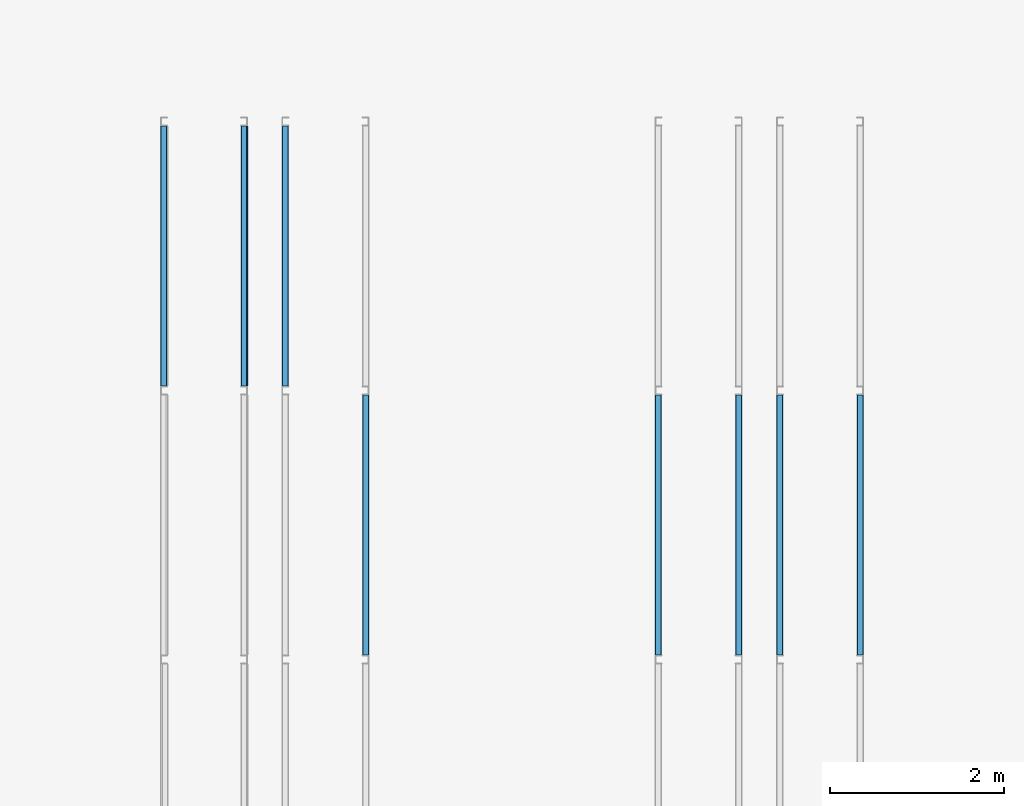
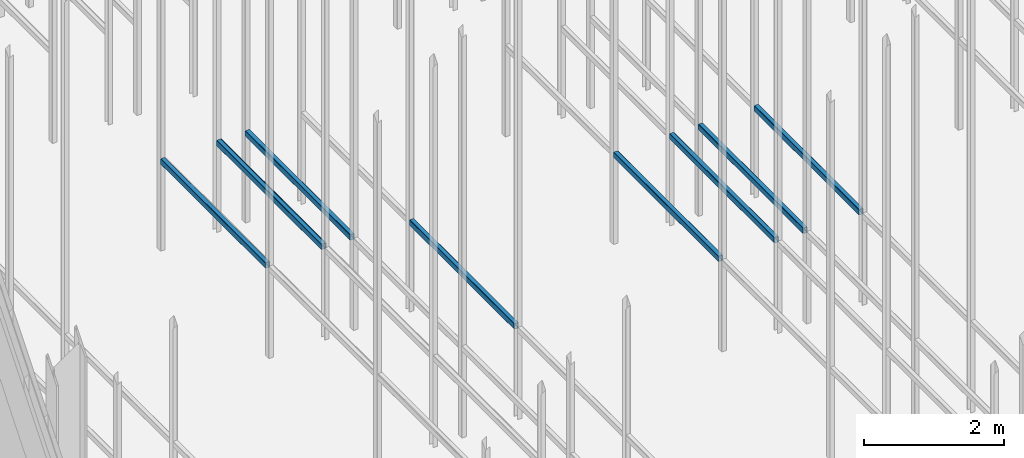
# One storey, part 146 of 302: 9 beams.
"""IFC2X3 building model written with IfcOpenShell, lengths in metres."""

from ifc_helpers import new_model, entity, si_unit, converted_unit, derived_unit, direction, frame, frame_2d, origin, place, context, subcontext, project, spatial, polyline, circle_curve, parameter, trimmed, segment, composite_curve, outline, extrude, material, type_object, element, save


model = new_model("IFC2X3")

# Units and contexts
model_context = context("Model", 3, precision=1e-05, world=origin(), true_north=direction((6.12303176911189e-17, 1.0)))
body_context = subcontext(model_context, "Body", "Model", "MODEL_VIEW")
ifc_project = project(units=[si_unit("LENGTHUNIT", "METRE"), si_unit("AREAUNIT", "SQUARE_METRE"), si_unit("VOLUMEUNIT", "CUBIC_METRE"), converted_unit("PLANEANGLEUNIT", "DEGREE", entity("IfcRatioMeasure", 0.0174532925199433), si_unit("PLANEANGLEUNIT", "RADIAN"), dimensions=[0, 0, 0, 0, 0, 0, 0]), si_unit("MASSUNIT", "GRAM", prefix="KILO"), derived_unit("MASSDENSITYUNIT", [(si_unit("MASSUNIT", "GRAM", prefix="KILO"), 1), (si_unit("LENGTHUNIT", "METRE"), -3)]), derived_unit("MOMENTOFINERTIAUNIT", [(si_unit("LENGTHUNIT", "METRE"), 4)]), si_unit("TIMEUNIT", "SECOND"), si_unit("FREQUENCYUNIT", "HERTZ"), si_unit("THERMODYNAMICTEMPERATUREUNIT", "DEGREE_CELSIUS"), derived_unit("THERMALTRANSMITTANCEUNIT", [(si_unit("MASSUNIT", "GRAM", prefix="KILO"), 1), (si_unit("THERMODYNAMICTEMPERATUREUNIT", "KELVIN"), -1), (si_unit("TIMEUNIT", "SECOND"), -3)]), derived_unit("VOLUMETRICFLOWRATEUNIT", [(si_unit("LENGTHUNIT", "METRE"), 3), (si_unit("TIMEUNIT", "SECOND"), -1)]), si_unit("ELECTRICCURRENTUNIT", "AMPERE"), si_unit("ELECTRICVOLTAGEUNIT", "VOLT"), si_unit("POWERUNIT", "WATT"), si_unit("FORCEUNIT", "NEWTON", prefix="KILO"), si_unit("ILLUMINANCEUNIT", "LUX"), si_unit("LUMINOUSFLUXUNIT", "LUMEN"), si_unit("LUMINOUSINTENSITYUNIT", "CANDELA"), derived_unit("USERDEFINED", [(si_unit("MASSUNIT", "GRAM", prefix="KILO"), -1), (si_unit("LENGTHUNIT", "METRE"), -2), (si_unit("TIMEUNIT", "SECOND"), 3), (si_unit("LUMINOUSFLUXUNIT", "LUMEN"), 1)]), derived_unit("LINEARVELOCITYUNIT", [(si_unit("LENGTHUNIT", "METRE"), 1), (si_unit("TIMEUNIT", "SECOND"), -1)]), si_unit("PRESSUREUNIT", "PASCAL"), derived_unit("USERDEFINED", [(si_unit("LENGTHUNIT", "METRE"), -2), (si_unit("MASSUNIT", "GRAM", prefix="KILO"), 1), (si_unit("TIMEUNIT", "SECOND"), -2)]), derived_unit("LINEARFORCEUNIT", [(si_unit("MASSUNIT", "GRAM", prefix="KILO"), 1), (si_unit("LENGTHUNIT", "METRE"), 1), (si_unit("TIMEUNIT", "SECOND"), -2), (si_unit("LENGTHUNIT", "METRE"), -1)]), derived_unit("PLANARFORCEUNIT", [(si_unit("MASSUNIT", "GRAM", prefix="KILO"), 1), (si_unit("LENGTHUNIT", "METRE"), 1), (si_unit("TIMEUNIT", "SECOND"), -2), (si_unit("LENGTHUNIT", "METRE"), -2)])], contexts=[model_context])

# Site, building, storey
site_placement = place(None, origin())
site = spatial("IfcSite", under=ifc_project, at=site_placement, Name="Default", CompositionType="ELEMENT")
building_placement = place(site_placement, origin())
building = spatial("IfcBuilding", under=site, at=building_placement, CompositionType="ELEMENT")
storey_placement = place(building_placement, frame((0.0, 0.0, -1.3)))
storey = spatial("IfcBuildingStorey", under=building, at=storey_placement, Name="00_EG", CompositionType="ELEMENT", Elevation=-1.3)

# Beams
ifc_material = material(Name="Metall - Baustahl S235 blau")
beam_type = type_object("IfcBeamType", Name="RHS Träger (EN 10219-2):RHS 100 x 75 x 5", PredefinedType="NOTDEFINED")
beam_1_placement = place(storey_placement, frame((-196.415111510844, 39.548088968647, 2.885), z_axis=(0.0, 0.0, 1.0), x_axis=(0.0, 1.0, 0.0)))
element("IfcBeam", 1, at=beam_1_placement, inside=storey, type_object=beam_type, material=ifc_material, Name="RHS Träger (EN 10219-2):RHS 100 x 75 x 5", ObjectType="RHS Träger (EN 10219-2):RHS 100 x 75 x 5", context=body_context, shape_type="SweptSolid", body=[
    extrude(outline(composite_curve([segment(trimmed(circle_curve(frame_2d((-0.0274999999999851, -0.0400000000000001), x_axis=(1.0, 0.0)), 0.01), [parameter(180.0)], [parameter(270.0)], True, "PARAMETER"), True, "CONTINUOUS"), segment(polyline([(-0.0274999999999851, -0.05), (0.0274999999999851, -0.05)]), True, "CONTINUOUS"), segment(trimmed(circle_curve(frame_2d((0.0274999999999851, -0.0400000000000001), x_axis=(1.0, 0.0)), 0.01), [parameter(270.0)], [parameter(5.08888749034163e-14)], True, "PARAMETER"), True, "CONTINUOUS"), segment(polyline([(0.0375000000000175, -0.0399999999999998), (0.0375000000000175, 0.0400000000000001)]), True, "CONTINUOUS"), segment(trimmed(circle_curve(frame_2d((0.0274999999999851, 0.0399999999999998), x_axis=(1.0, 0.0)), 0.01), [parameter(360.0)], [parameter(89.9999999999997)], True, "PARAMETER"), True, "CONTINUOUS"), segment(polyline([(0.0274999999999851, 0.05), (-0.0274999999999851, 0.05)]), True, "CONTINUOUS"), segment(trimmed(circle_curve(frame_2d((-0.0274999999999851, 0.0399999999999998), x_axis=(1.0, 0.0)), 0.01), [parameter(90.0000000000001)], [parameter(180.0)], True, "PARAMETER"), True, "CONTINUOUS"), segment(polyline([(-0.0374999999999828, 0.0400000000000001), (-0.0374999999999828, -0.0399999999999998)]), True, "CONTINUOUS")], self_intersect=False), holes=[composite_curve([segment(polyline([(0.0274999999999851, -0.0450000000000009), (-0.0274999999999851, -0.0450000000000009)]), True, "CONTINUOUS"), segment(trimmed(circle_curve(frame_2d((-0.0274999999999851, -0.0400000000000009), x_axis=(1.0, 0.0)), 0.005), [parameter(180.0)], [parameter(270.0)], True, "PARAMETER"), False, "CONTINUOUS"), segment(polyline([(-0.0325000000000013, -0.0400000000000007), (-0.0325000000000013, 0.0399999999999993)]), True, "CONTINUOUS"), segment(trimmed(circle_curve(frame_2d((-0.0274999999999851, 0.039999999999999), x_axis=(1.0, 0.0)), 0.005), [parameter(90.0000000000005)], [parameter(180.0)], True, "PARAMETER"), False, "CONTINUOUS"), segment(polyline([(-0.0274999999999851, 0.0449999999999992), (0.0274999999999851, 0.0449999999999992)]), True, "CONTINUOUS"), segment(trimmed(circle_curve(frame_2d((0.0274999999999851, 0.039999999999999), x_axis=(1.0, 0.0)), 0.005), [parameter(0.0)], [parameter(90.0000000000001)], True, "PARAMETER"), False, "CONTINUOUS"), segment(polyline([(0.0325000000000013, 0.0399999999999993), (0.0325000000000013, -0.0400000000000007)]), True, "CONTINUOUS"), segment(trimmed(circle_curve(frame_2d((0.0274999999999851, -0.0400000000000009), x_axis=(1.0, 0.0)), 0.005), [parameter(270.0)], [parameter(4.07110999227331e-13)], True, "PARAMETER"), False, "CONTINUOUS")], self_intersect=False)]), frame((0.000100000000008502, 0.0375000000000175, -0.0500000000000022), z_axis=(1.0, 0.0, 0.0), x_axis=(0.0, -1.0, 0.0)), (0.0, 0.0, 1.0), 2.99979999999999),
])
beam_2_placement = place(storey_placement, frame((-195.565111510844, 39.548088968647, 2.885), z_axis=(0.0, 0.0, 1.0), x_axis=(0.0, 1.0, 0.0)))
element("IfcBeam", 2, at=beam_2_placement, inside=storey, type_object=beam_type, material=ifc_material, Name="RHS Träger (EN 10219-2):RHS 100 x 75 x 5", ObjectType="RHS Träger (EN 10219-2):RHS 100 x 75 x 5", context=body_context, shape_type="SweptSolid", body=[
    extrude(outline(composite_curve([segment(polyline([(-0.0399999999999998, -0.0374999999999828), (0.0400000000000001, -0.0374999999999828)]), True, "CONTINUOUS"), segment(trimmed(circle_curve(frame_2d((0.0399999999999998, -0.0274999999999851), x_axis=(0.0, 1.0)), 0.01), [parameter(180.0)], [parameter(270.0)], True, "PARAMETER"), True, "CONTINUOUS"), segment(polyline([(0.05, -0.0274999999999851), (0.05, 0.0274999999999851)]), True, "CONTINUOUS"), segment(trimmed(circle_curve(frame_2d((0.0399999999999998, 0.0274999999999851), x_axis=(0.0, 1.0)), 0.01), [parameter(270.0)], [parameter(4.07110999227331e-13)], True, "PARAMETER"), True, "CONTINUOUS"), segment(polyline([(0.0400000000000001, 0.0375000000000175), (-0.0399999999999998, 0.0375000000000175)]), True, "CONTINUOUS"), segment(trimmed(circle_curve(frame_2d((-0.0400000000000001, 0.0274999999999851), x_axis=(0.0, 1.0)), 0.01), [parameter(360.0)], [parameter(90.0000000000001)], True, "PARAMETER"), True, "CONTINUOUS"), segment(polyline([(-0.05, 0.0274999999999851), (-0.05, -0.0274999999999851)]), True, "CONTINUOUS"), segment(trimmed(circle_curve(frame_2d((-0.0400000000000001, -0.0274999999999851), x_axis=(0.0, 1.0)), 0.01), [parameter(90.0000000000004)], [parameter(180.0)], True, "PARAMETER"), True, "CONTINUOUS")], self_intersect=False), holes=[composite_curve([segment(trimmed(circle_curve(frame_2d((-0.0400000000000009, 0.0274999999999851), x_axis=(0.0, 1.0)), 0.005), [parameter(360.0)], [parameter(89.9999999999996)], True, "PARAMETER"), False, "CONTINUOUS"), segment(polyline([(-0.0400000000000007, 0.0325000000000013), (0.0399999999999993, 0.0325000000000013)]), True, "CONTINUOUS"), segment(trimmed(circle_curve(frame_2d((0.039999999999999, 0.0274999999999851), x_axis=(0.0, 1.0)), 0.005), [parameter(270.0)], [parameter(0.0)], True, "PARAMETER"), False, "CONTINUOUS"), segment(polyline([(0.0449999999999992, 0.0274999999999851), (0.0449999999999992, -0.0274999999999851)]), True, "CONTINUOUS"), segment(trimmed(circle_curve(frame_2d((0.039999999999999, -0.0274999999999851), x_axis=(0.0, 1.0)), 0.005), [parameter(180.0)], [parameter(269.999999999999)], True, "PARAMETER"), False, "CONTINUOUS"), segment(polyline([(0.0399999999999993, -0.0325000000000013), (-0.0400000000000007, -0.0325000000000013)]), True, "CONTINUOUS"), segment(trimmed(circle_curve(frame_2d((-0.0400000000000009, -0.0274999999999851), x_axis=(0.0, 1.0)), 0.005), [parameter(90.0000000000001)], [parameter(180.0)], True, "PARAMETER"), False, "CONTINUOUS"), segment(polyline([(-0.0450000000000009, -0.0274999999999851), (-0.0450000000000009, 0.0274999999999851)]), True, "CONTINUOUS")], self_intersect=False)]), frame((0.000100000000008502, -0.0375000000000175, -0.0500000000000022), z_axis=(1.0, 0.0, 0.0), x_axis=(0.0, 0.0, -1.0)), (0.0, 0.0, 1.0), 2.99979999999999),
])
beam_3_placement = place(storey_placement, frame((-195.015111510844, 39.548088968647, 2.885), z_axis=(0.0, 0.0, 1.0), x_axis=(0.0, 1.0, 0.0)))
element("IfcBeam", 3, at=beam_3_placement, inside=storey, type_object=beam_type, material=ifc_material, Name="RHS Träger (EN 10219-2):RHS 100 x 75 x 5", ObjectType="RHS Träger (EN 10219-2):RHS 100 x 75 x 5", context=body_context, shape_type="SweptSolid", body=[
    extrude(outline(composite_curve([segment(trimmed(circle_curve(frame_2d((-0.0275000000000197, -0.0400000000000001), x_axis=(1.0, 0.0)), 0.01), [parameter(180.0)], [parameter(270.0)], True, "PARAMETER"), True, "CONTINUOUS"), segment(polyline([(-0.0275000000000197, -0.05), (0.0274999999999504, -0.05)]), True, "CONTINUOUS"), segment(trimmed(circle_curve(frame_2d((0.0274999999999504, -0.0400000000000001), x_axis=(1.0, 0.0)), 0.01), [parameter(270.0)], [parameter(5.08888749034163e-14)], True, "PARAMETER"), True, "CONTINUOUS"), segment(polyline([(0.0374999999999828, -0.0399999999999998), (0.0374999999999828, 0.0400000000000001)]), True, "CONTINUOUS"), segment(trimmed(circle_curve(frame_2d((0.0274999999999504, 0.0399999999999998), x_axis=(1.0, 0.0)), 0.01), [parameter(360.0)], [parameter(89.9999999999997)], True, "PARAMETER"), True, "CONTINUOUS"), segment(polyline([(0.0274999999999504, 0.05), (-0.0275000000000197, 0.05)]), True, "CONTINUOUS"), segment(trimmed(circle_curve(frame_2d((-0.0275000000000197, 0.0399999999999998), x_axis=(1.0, 0.0)), 0.01), [parameter(90.0000000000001)], [parameter(180.0)], True, "PARAMETER"), True, "CONTINUOUS"), segment(polyline([(-0.0375000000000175, 0.0400000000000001), (-0.0375000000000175, -0.0399999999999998)]), True, "CONTINUOUS")], self_intersect=False), holes=[composite_curve([segment(polyline([(0.0274999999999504, -0.0450000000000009), (-0.0275000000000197, -0.0450000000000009)]), True, "CONTINUOUS"), segment(trimmed(circle_curve(frame_2d((-0.0275000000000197, -0.0400000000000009), x_axis=(1.0, 0.0)), 0.005), [parameter(180.0)], [parameter(270.0)], True, "PARAMETER"), False, "CONTINUOUS"), segment(polyline([(-0.0325000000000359, -0.0400000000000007), (-0.0325000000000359, 0.0399999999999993)]), True, "CONTINUOUS"), segment(trimmed(circle_curve(frame_2d((-0.0275000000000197, 0.039999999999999), x_axis=(1.0, 0.0)), 0.005), [parameter(90.0000000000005)], [parameter(180.0)], True, "PARAMETER"), False, "CONTINUOUS"), segment(polyline([(-0.0275000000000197, 0.0449999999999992), (0.0274999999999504, 0.0449999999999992)]), True, "CONTINUOUS"), segment(trimmed(circle_curve(frame_2d((0.0274999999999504, 0.039999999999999), x_axis=(1.0, 0.0)), 0.005), [parameter(0.0)], [parameter(90.0000000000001)], True, "PARAMETER"), False, "CONTINUOUS"), segment(polyline([(0.0324999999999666, 0.0399999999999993), (0.0324999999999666, -0.0400000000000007)]), True, "CONTINUOUS"), segment(trimmed(circle_curve(frame_2d((0.0274999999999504, -0.0400000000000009), x_axis=(1.0, 0.0)), 0.005), [parameter(270.0)], [parameter(4.07110999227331e-13)], True, "PARAMETER"), False, "CONTINUOUS")], self_intersect=False)]), frame((0.000100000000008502, 0.0374999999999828, -0.0500000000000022), z_axis=(1.0, 0.0, 0.0), x_axis=(0.0, -1.0, 0.0)), (0.0, 0.0, 1.0), 2.99979999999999),
])
beam_4_placement = place(storey_placement, frame((-194.165111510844, 39.548088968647, 2.885), z_axis=(0.0, 0.0, 1.0), x_axis=(0.0, 1.0, 0.0)))
element("IfcBeam", 4, at=beam_4_placement, inside=storey, type_object=beam_type, material=ifc_material, Name="RHS Träger (EN 10219-2):RHS 100 x 75 x 5", ObjectType="RHS Träger (EN 10219-2):RHS 100 x 75 x 5", context=body_context, shape_type="SweptSolid", body=[
    extrude(outline(composite_curve([segment(polyline([(-0.0399999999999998, -0.0374999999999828), (0.0400000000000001, -0.0374999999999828)]), True, "CONTINUOUS"), segment(trimmed(circle_curve(frame_2d((0.0399999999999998, -0.0274999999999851), x_axis=(0.0, 1.0)), 0.01), [parameter(180.0)], [parameter(270.0)], True, "PARAMETER"), True, "CONTINUOUS"), segment(polyline([(0.05, -0.0274999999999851), (0.05, 0.0274999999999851)]), True, "CONTINUOUS"), segment(trimmed(circle_curve(frame_2d((0.0399999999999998, 0.0274999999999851), x_axis=(0.0, 1.0)), 0.01), [parameter(270.0)], [parameter(4.07110999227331e-13)], True, "PARAMETER"), True, "CONTINUOUS"), segment(polyline([(0.0400000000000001, 0.0375000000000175), (-0.0399999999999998, 0.0375000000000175)]), True, "CONTINUOUS"), segment(trimmed(circle_curve(frame_2d((-0.0400000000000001, 0.0274999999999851), x_axis=(0.0, 1.0)), 0.01), [parameter(360.0)], [parameter(90.0000000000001)], True, "PARAMETER"), True, "CONTINUOUS"), segment(polyline([(-0.05, 0.0274999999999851), (-0.05, -0.0274999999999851)]), True, "CONTINUOUS"), segment(trimmed(circle_curve(frame_2d((-0.0400000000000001, -0.0274999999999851), x_axis=(0.0, 1.0)), 0.01), [parameter(90.0000000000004)], [parameter(180.0)], True, "PARAMETER"), True, "CONTINUOUS")], self_intersect=False), holes=[composite_curve([segment(trimmed(circle_curve(frame_2d((-0.0400000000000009, 0.0274999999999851), x_axis=(0.0, 1.0)), 0.005), [parameter(360.0)], [parameter(89.9999999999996)], True, "PARAMETER"), False, "CONTINUOUS"), segment(polyline([(-0.0400000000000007, 0.0325000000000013), (0.0399999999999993, 0.0325000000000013)]), True, "CONTINUOUS"), segment(trimmed(circle_curve(frame_2d((0.039999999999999, 0.0274999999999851), x_axis=(0.0, 1.0)), 0.005), [parameter(270.0)], [parameter(0.0)], True, "PARAMETER"), False, "CONTINUOUS"), segment(polyline([(0.0449999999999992, 0.0274999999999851), (0.0449999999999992, -0.0274999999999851)]), True, "CONTINUOUS"), segment(trimmed(circle_curve(frame_2d((0.039999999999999, -0.0274999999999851), x_axis=(0.0, 1.0)), 0.005), [parameter(180.0)], [parameter(269.999999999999)], True, "PARAMETER"), False, "CONTINUOUS"), segment(polyline([(0.0399999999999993, -0.0325000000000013), (-0.0400000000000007, -0.0325000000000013)]), True, "CONTINUOUS"), segment(trimmed(circle_curve(frame_2d((-0.0400000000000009, -0.0274999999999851), x_axis=(0.0, 1.0)), 0.005), [parameter(90.0000000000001)], [parameter(180.0)], True, "PARAMETER"), False, "CONTINUOUS"), segment(polyline([(-0.0450000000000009, -0.0274999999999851), (-0.0450000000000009, 0.0274999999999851)]), True, "CONTINUOUS")], self_intersect=False)]), frame((0.000100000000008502, -0.0375000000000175, -0.0500000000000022), z_axis=(1.0, 0.0, 0.0), x_axis=(0.0, 0.0, -1.0)), (0.0, 0.0, 1.0), 2.99979999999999),
])
beam_5_placement = place(storey_placement, frame((-199.865111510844, 39.548088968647, 2.885), z_axis=(0.0, 0.0, 1.0), x_axis=(0.0, 1.0, 0.0)))
element("IfcBeam", 5, at=beam_5_placement, inside=storey, type_object=beam_type, material=ifc_material, Name="RHS Träger (EN 10219-2):RHS 100 x 75 x 5", ObjectType="RHS Träger (EN 10219-2):RHS 100 x 75 x 5", context=body_context, shape_type="SweptSolid", body=[
    extrude(outline(composite_curve([segment(polyline([(-0.0399999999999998, -0.0374999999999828), (0.0400000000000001, -0.0374999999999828)]), True, "CONTINUOUS"), segment(trimmed(circle_curve(frame_2d((0.0399999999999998, -0.0274999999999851), x_axis=(0.0, 1.0)), 0.01), [parameter(180.0)], [parameter(270.0)], True, "PARAMETER"), True, "CONTINUOUS"), segment(polyline([(0.05, -0.0274999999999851), (0.05, 0.0274999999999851)]), True, "CONTINUOUS"), segment(trimmed(circle_curve(frame_2d((0.0399999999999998, 0.0274999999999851), x_axis=(0.0, 1.0)), 0.01), [parameter(270.0)], [parameter(4.07110999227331e-13)], True, "PARAMETER"), True, "CONTINUOUS"), segment(polyline([(0.0400000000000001, 0.0375000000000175), (-0.0399999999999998, 0.0375000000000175)]), True, "CONTINUOUS"), segment(trimmed(circle_curve(frame_2d((-0.0400000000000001, 0.0274999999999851), x_axis=(0.0, 1.0)), 0.01), [parameter(360.0)], [parameter(90.0000000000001)], True, "PARAMETER"), True, "CONTINUOUS"), segment(polyline([(-0.05, 0.0274999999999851), (-0.05, -0.0274999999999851)]), True, "CONTINUOUS"), segment(trimmed(circle_curve(frame_2d((-0.0400000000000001, -0.0274999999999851), x_axis=(0.0, 1.0)), 0.01), [parameter(90.0000000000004)], [parameter(180.0)], True, "PARAMETER"), True, "CONTINUOUS")], self_intersect=False), holes=[composite_curve([segment(trimmed(circle_curve(frame_2d((-0.0400000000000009, 0.0274999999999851), x_axis=(0.0, 1.0)), 0.005), [parameter(360.0)], [parameter(89.9999999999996)], True, "PARAMETER"), False, "CONTINUOUS"), segment(polyline([(-0.0400000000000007, 0.0325000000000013), (0.0399999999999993, 0.0325000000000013)]), True, "CONTINUOUS"), segment(trimmed(circle_curve(frame_2d((0.039999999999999, 0.0274999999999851), x_axis=(0.0, 1.0)), 0.005), [parameter(270.0)], [parameter(0.0)], True, "PARAMETER"), False, "CONTINUOUS"), segment(polyline([(0.0449999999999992, 0.0274999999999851), (0.0449999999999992, -0.0274999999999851)]), True, "CONTINUOUS"), segment(trimmed(circle_curve(frame_2d((0.039999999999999, -0.0274999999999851), x_axis=(0.0, 1.0)), 0.005), [parameter(180.0)], [parameter(269.999999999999)], True, "PARAMETER"), False, "CONTINUOUS"), segment(polyline([(0.0399999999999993, -0.0325000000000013), (-0.0400000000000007, -0.0325000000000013)]), True, "CONTINUOUS"), segment(trimmed(circle_curve(frame_2d((-0.0400000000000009, -0.0274999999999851), x_axis=(0.0, 1.0)), 0.005), [parameter(90.0000000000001)], [parameter(180.0)], True, "PARAMETER"), False, "CONTINUOUS"), segment(polyline([(-0.0450000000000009, -0.0274999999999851), (-0.0450000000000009, 0.0274999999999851)]), True, "CONTINUOUS")], self_intersect=False)]), frame((9.99999999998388e-05, -0.0375000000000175, -0.0500000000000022), z_axis=(1.0, 0.0, 0.0), x_axis=(0.0, 0.0, -1.0)), (0.0, 0.0, 1.0), 2.99979999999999),
])
beam_6_placement = place(storey_placement, frame((-200.715111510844, 42.648088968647, 2.885), z_axis=(0.0, 0.0, 1.0), x_axis=(0.0, 1.0, 0.0)))
element("IfcBeam", 6, at=beam_6_placement, inside=storey, type_object=beam_type, material=ifc_material, Name="RHS Träger (EN 10219-2):RHS 100 x 75 x 5", ObjectType="RHS Träger (EN 10219-2):RHS 100 x 75 x 5", context=body_context, shape_type="SweptSolid", body=[
    extrude(outline(composite_curve([segment(trimmed(circle_curve(frame_2d((-0.0274999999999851, -0.0400000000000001), x_axis=(1.0, 0.0)), 0.01), [parameter(180.0)], [parameter(270.0)], True, "PARAMETER"), True, "CONTINUOUS"), segment(polyline([(-0.0274999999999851, -0.05), (0.0274999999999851, -0.05)]), True, "CONTINUOUS"), segment(trimmed(circle_curve(frame_2d((0.0274999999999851, -0.0400000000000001), x_axis=(1.0, 0.0)), 0.01), [parameter(270.0)], [parameter(5.08888749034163e-14)], True, "PARAMETER"), True, "CONTINUOUS"), segment(polyline([(0.0375000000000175, -0.0399999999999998), (0.0375000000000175, 0.0400000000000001)]), True, "CONTINUOUS"), segment(trimmed(circle_curve(frame_2d((0.0274999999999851, 0.0399999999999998), x_axis=(1.0, 0.0)), 0.01), [parameter(360.0)], [parameter(89.9999999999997)], True, "PARAMETER"), True, "CONTINUOUS"), segment(polyline([(0.0274999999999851, 0.05), (-0.0274999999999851, 0.05)]), True, "CONTINUOUS"), segment(trimmed(circle_curve(frame_2d((-0.0274999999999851, 0.0399999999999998), x_axis=(1.0, 0.0)), 0.01), [parameter(90.0000000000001)], [parameter(180.0)], True, "PARAMETER"), True, "CONTINUOUS"), segment(polyline([(-0.0374999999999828, 0.0400000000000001), (-0.0374999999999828, -0.0399999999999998)]), True, "CONTINUOUS")], self_intersect=False), holes=[composite_curve([segment(polyline([(0.0274999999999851, -0.0450000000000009), (-0.0274999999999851, -0.0450000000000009)]), True, "CONTINUOUS"), segment(trimmed(circle_curve(frame_2d((-0.0274999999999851, -0.0400000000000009), x_axis=(1.0, 0.0)), 0.005), [parameter(180.0)], [parameter(270.0)], True, "PARAMETER"), False, "CONTINUOUS"), segment(polyline([(-0.0325000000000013, -0.0400000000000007), (-0.0325000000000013, 0.0399999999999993)]), True, "CONTINUOUS"), segment(trimmed(circle_curve(frame_2d((-0.0274999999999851, 0.039999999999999), x_axis=(1.0, 0.0)), 0.005), [parameter(90.0000000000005)], [parameter(180.0)], True, "PARAMETER"), False, "CONTINUOUS"), segment(polyline([(-0.0274999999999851, 0.0449999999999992), (0.0274999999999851, 0.0449999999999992)]), True, "CONTINUOUS"), segment(trimmed(circle_curve(frame_2d((0.0274999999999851, 0.039999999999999), x_axis=(1.0, 0.0)), 0.005), [parameter(0.0)], [parameter(90.0000000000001)], True, "PARAMETER"), False, "CONTINUOUS"), segment(polyline([(0.0325000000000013, 0.0399999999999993), (0.0325000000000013, -0.0400000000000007)]), True, "CONTINUOUS"), segment(trimmed(circle_curve(frame_2d((0.0274999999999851, -0.0400000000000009), x_axis=(1.0, 0.0)), 0.005), [parameter(270.0)], [parameter(4.07110999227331e-13)], True, "PARAMETER"), False, "CONTINUOUS")], self_intersect=False)]), frame((0.000100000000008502, 0.0375000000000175, -0.0500000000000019), z_axis=(1.0, 0.0, 0.0), x_axis=(0.0, -1.0, 0.0)), (0.0, 0.0, 1.0), 2.99979999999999),
])
beam_7_placement = place(storey_placement, frame((-201.255111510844, 42.648088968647, 2.885), z_axis=(0.0, 0.0, 1.0), x_axis=(0.0, 1.0, 0.0)))
element("IfcBeam", 7, at=beam_7_placement, inside=storey, type_object=beam_type, material=ifc_material, Name="RHS Träger (EN 10219-2):RHS 100 x 75 x 5", ObjectType="RHS Träger (EN 10219-2):RHS 100 x 75 x 5", context=body_context, shape_type="SweptSolid", body=[
    extrude(outline(composite_curve([segment(polyline([(-0.0399999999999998, -0.0374999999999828), (0.0400000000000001, -0.0374999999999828)]), True, "CONTINUOUS"), segment(trimmed(circle_curve(frame_2d((0.0399999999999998, -0.0274999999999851), x_axis=(0.0, 1.0)), 0.01), [parameter(180.0)], [parameter(270.0)], True, "PARAMETER"), True, "CONTINUOUS"), segment(polyline([(0.05, -0.0274999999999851), (0.05, 0.0274999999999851)]), True, "CONTINUOUS"), segment(trimmed(circle_curve(frame_2d((0.0399999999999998, 0.0274999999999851), x_axis=(0.0, 1.0)), 0.01), [parameter(270.0)], [parameter(4.07110999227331e-13)], True, "PARAMETER"), True, "CONTINUOUS"), segment(polyline([(0.0400000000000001, 0.0375000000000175), (-0.0399999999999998, 0.0375000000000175)]), True, "CONTINUOUS"), segment(trimmed(circle_curve(frame_2d((-0.0400000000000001, 0.0274999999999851), x_axis=(0.0, 1.0)), 0.01), [parameter(360.0)], [parameter(90.0000000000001)], True, "PARAMETER"), True, "CONTINUOUS"), segment(polyline([(-0.05, 0.0274999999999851), (-0.05, -0.0274999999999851)]), True, "CONTINUOUS"), segment(trimmed(circle_curve(frame_2d((-0.0400000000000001, -0.0274999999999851), x_axis=(0.0, 1.0)), 0.01), [parameter(90.0000000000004)], [parameter(180.0)], True, "PARAMETER"), True, "CONTINUOUS")], self_intersect=False), holes=[composite_curve([segment(trimmed(circle_curve(frame_2d((-0.0400000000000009, 0.0274999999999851), x_axis=(0.0, 1.0)), 0.005), [parameter(360.0)], [parameter(89.9999999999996)], True, "PARAMETER"), False, "CONTINUOUS"), segment(polyline([(-0.0400000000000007, 0.0325000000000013), (0.0399999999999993, 0.0325000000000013)]), True, "CONTINUOUS"), segment(trimmed(circle_curve(frame_2d((0.039999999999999, 0.0274999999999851), x_axis=(0.0, 1.0)), 0.005), [parameter(270.0)], [parameter(0.0)], True, "PARAMETER"), False, "CONTINUOUS"), segment(polyline([(0.0449999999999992, 0.0274999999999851), (0.0449999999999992, -0.0274999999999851)]), True, "CONTINUOUS"), segment(trimmed(circle_curve(frame_2d((0.039999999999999, -0.0274999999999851), x_axis=(0.0, 1.0)), 0.005), [parameter(180.0)], [parameter(269.999999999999)], True, "PARAMETER"), False, "CONTINUOUS"), segment(polyline([(0.0399999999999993, -0.0325000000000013), (-0.0400000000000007, -0.0325000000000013)]), True, "CONTINUOUS"), segment(trimmed(circle_curve(frame_2d((-0.0400000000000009, -0.0274999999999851), x_axis=(0.0, 1.0)), 0.005), [parameter(90.0000000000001)], [parameter(180.0)], True, "PARAMETER"), False, "CONTINUOUS"), segment(polyline([(-0.0450000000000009, -0.0274999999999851), (-0.0450000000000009, 0.0274999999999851)]), True, "CONTINUOUS")], self_intersect=False)]), frame((0.000100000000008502, -0.0375000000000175, -0.0500000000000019), z_axis=(1.0, 0.0, 0.0), x_axis=(0.0, 0.0, -1.0)), (0.0, 0.0, 1.0), 2.99979999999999),
])
beam_8_placement = place(storey_placement, frame((-202.115111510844, 42.648088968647, 2.885), z_axis=(0.0, 0.0, 1.0), x_axis=(0.0, 1.0, 0.0)))
element("IfcBeam", 8, at=beam_8_placement, inside=storey, type_object=beam_type, material=ifc_material, Name="RHS Träger (EN 10219-2):RHS 100 x 75 x 5", ObjectType="RHS Träger (EN 10219-2):RHS 100 x 75 x 5", context=body_context, shape_type="SweptSolid", body=[
    extrude(outline(composite_curve([segment(trimmed(circle_curve(frame_2d((-0.0274999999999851, -0.0400000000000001), x_axis=(1.0, 0.0)), 0.01), [parameter(180.0)], [parameter(270.0)], True, "PARAMETER"), True, "CONTINUOUS"), segment(polyline([(-0.0274999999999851, -0.05), (0.0274999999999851, -0.05)]), True, "CONTINUOUS"), segment(trimmed(circle_curve(frame_2d((0.0274999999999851, -0.0400000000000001), x_axis=(1.0, 0.0)), 0.01), [parameter(270.0)], [parameter(5.08888749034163e-14)], True, "PARAMETER"), True, "CONTINUOUS"), segment(polyline([(0.0375000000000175, -0.0399999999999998), (0.0375000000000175, 0.0400000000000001)]), True, "CONTINUOUS"), segment(trimmed(circle_curve(frame_2d((0.0274999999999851, 0.0399999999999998), x_axis=(1.0, 0.0)), 0.01), [parameter(360.0)], [parameter(89.9999999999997)], True, "PARAMETER"), True, "CONTINUOUS"), segment(polyline([(0.0274999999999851, 0.05), (-0.0274999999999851, 0.05)]), True, "CONTINUOUS"), segment(trimmed(circle_curve(frame_2d((-0.0274999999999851, 0.0399999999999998), x_axis=(1.0, 0.0)), 0.01), [parameter(90.0000000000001)], [parameter(180.0)], True, "PARAMETER"), True, "CONTINUOUS"), segment(polyline([(-0.0374999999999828, 0.0400000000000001), (-0.0374999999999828, -0.0399999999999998)]), True, "CONTINUOUS")], self_intersect=False), holes=[composite_curve([segment(polyline([(0.0274999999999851, -0.0450000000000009), (-0.0274999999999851, -0.0450000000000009)]), True, "CONTINUOUS"), segment(trimmed(circle_curve(frame_2d((-0.0274999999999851, -0.0400000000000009), x_axis=(1.0, 0.0)), 0.005), [parameter(180.0)], [parameter(270.0)], True, "PARAMETER"), False, "CONTINUOUS"), segment(polyline([(-0.0325000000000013, -0.0400000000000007), (-0.0325000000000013, 0.0399999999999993)]), True, "CONTINUOUS"), segment(trimmed(circle_curve(frame_2d((-0.0274999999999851, 0.039999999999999), x_axis=(1.0, 0.0)), 0.005), [parameter(90.0000000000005)], [parameter(180.0)], True, "PARAMETER"), False, "CONTINUOUS"), segment(polyline([(-0.0274999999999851, 0.0449999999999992), (0.0274999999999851, 0.0449999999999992)]), True, "CONTINUOUS"), segment(trimmed(circle_curve(frame_2d((0.0274999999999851, 0.039999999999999), x_axis=(1.0, 0.0)), 0.005), [parameter(0.0)], [parameter(90.0000000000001)], True, "PARAMETER"), False, "CONTINUOUS"), segment(polyline([(0.0325000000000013, 0.0399999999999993), (0.0325000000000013, -0.0400000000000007)]), True, "CONTINUOUS"), segment(trimmed(circle_curve(frame_2d((0.0274999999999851, -0.0400000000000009), x_axis=(1.0, 0.0)), 0.005), [parameter(270.0)], [parameter(4.07110999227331e-13)], True, "PARAMETER"), False, "CONTINUOUS")], self_intersect=False)]), frame((0.000100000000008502, 0.0375000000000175, -0.0500000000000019), z_axis=(1.0, 0.0, 0.0), x_axis=(0.0, -1.0, 0.0)), (0.0, 0.0, 1.0), 2.99979999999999),
])
beam_9_placement = place(storey_placement, frame((-201.265111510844, 42.648088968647, 2.885), z_axis=(0.0, 0.0, 1.0), x_axis=(0.0, 1.0, 0.0)))
element("IfcBeam", 9, at=beam_9_placement, inside=storey, type_object=beam_type, material=ifc_material, Name="RHS Träger (EN 10219-2):RHS 100 x 75 x 5", ObjectType="RHS Träger (EN 10219-2):RHS 100 x 75 x 5", context=body_context, shape_type="SweptSolid", body=[
    extrude(outline(composite_curve([segment(polyline([(-0.0399999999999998, -0.0374999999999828), (0.0400000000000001, -0.0374999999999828)]), True, "CONTINUOUS"), segment(trimmed(circle_curve(frame_2d((0.0399999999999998, -0.0274999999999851), x_axis=(0.0, 1.0)), 0.01), [parameter(180.0)], [parameter(270.0)], True, "PARAMETER"), True, "CONTINUOUS"), segment(polyline([(0.05, -0.0274999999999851), (0.05, 0.0274999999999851)]), True, "CONTINUOUS"), segment(trimmed(circle_curve(frame_2d((0.0399999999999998, 0.0274999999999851), x_axis=(0.0, 1.0)), 0.01), [parameter(270.0)], [parameter(4.07110999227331e-13)], True, "PARAMETER"), True, "CONTINUOUS"), segment(polyline([(0.0400000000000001, 0.0375000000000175), (-0.0399999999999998, 0.0375000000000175)]), True, "CONTINUOUS"), segment(trimmed(circle_curve(frame_2d((-0.0400000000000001, 0.0274999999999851), x_axis=(0.0, 1.0)), 0.01), [parameter(360.0)], [parameter(90.0000000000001)], True, "PARAMETER"), True, "CONTINUOUS"), segment(polyline([(-0.05, 0.0274999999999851), (-0.05, -0.0274999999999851)]), True, "CONTINUOUS"), segment(trimmed(circle_curve(frame_2d((-0.0400000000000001, -0.0274999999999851), x_axis=(0.0, 1.0)), 0.01), [parameter(90.0000000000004)], [parameter(180.0)], True, "PARAMETER"), True, "CONTINUOUS")], self_intersect=False), holes=[composite_curve([segment(trimmed(circle_curve(frame_2d((-0.0400000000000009, 0.0274999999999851), x_axis=(0.0, 1.0)), 0.005), [parameter(360.0)], [parameter(89.9999999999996)], True, "PARAMETER"), False, "CONTINUOUS"), segment(polyline([(-0.0400000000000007, 0.0325000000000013), (0.0399999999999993, 0.0325000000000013)]), True, "CONTINUOUS"), segment(trimmed(circle_curve(frame_2d((0.039999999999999, 0.0274999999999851), x_axis=(0.0, 1.0)), 0.005), [parameter(270.0)], [parameter(0.0)], True, "PARAMETER"), False, "CONTINUOUS"), segment(polyline([(0.0449999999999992, 0.0274999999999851), (0.0449999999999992, -0.0274999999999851)]), True, "CONTINUOUS"), segment(trimmed(circle_curve(frame_2d((0.039999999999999, -0.0274999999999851), x_axis=(0.0, 1.0)), 0.005), [parameter(180.0)], [parameter(269.999999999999)], True, "PARAMETER"), False, "CONTINUOUS"), segment(polyline([(0.0399999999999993, -0.0325000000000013), (-0.0400000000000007, -0.0325000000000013)]), True, "CONTINUOUS"), segment(trimmed(circle_curve(frame_2d((-0.0400000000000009, -0.0274999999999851), x_axis=(0.0, 1.0)), 0.005), [parameter(90.0000000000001)], [parameter(180.0)], True, "PARAMETER"), False, "CONTINUOUS"), segment(polyline([(-0.0450000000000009, -0.0274999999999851), (-0.0450000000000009, 0.0274999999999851)]), True, "CONTINUOUS")], self_intersect=False)]), frame((0.000100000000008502, -0.0375000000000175, -0.0500000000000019), z_axis=(1.0, 0.0, 0.0), x_axis=(0.0, 0.0, -1.0)), (0.0, 0.0, 1.0), 2.99979999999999),
])

save(model, "model.ifc")
